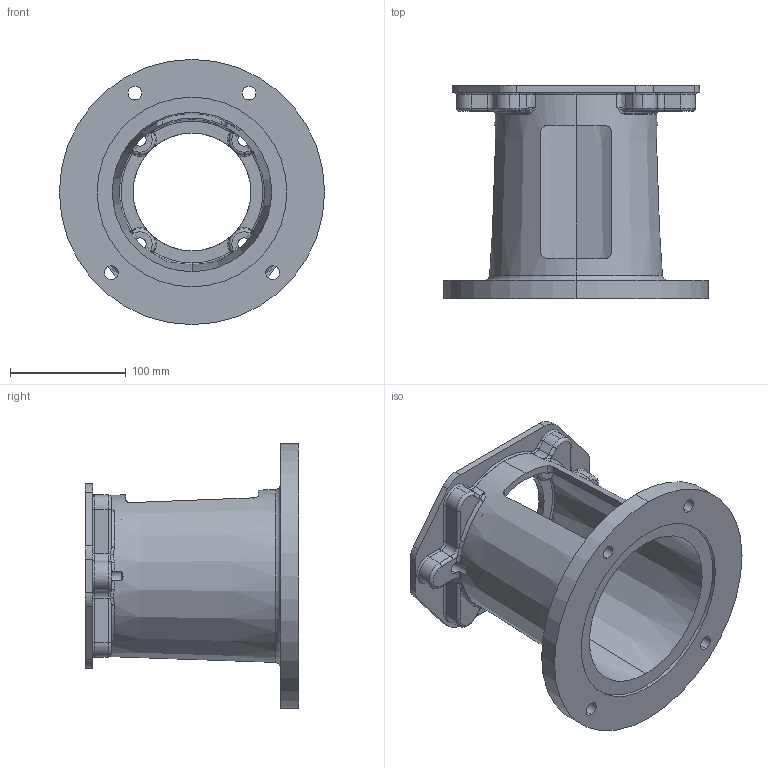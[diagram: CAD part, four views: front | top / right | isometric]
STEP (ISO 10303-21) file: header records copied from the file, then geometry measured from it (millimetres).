
FILE_DESCRIPTION (( 'STEP AP203' ), '1' );
FILE_NAME ('E644722B.STEP', '2014-11-03T18:57:40', ( '' ), ( '' ), 'SwSTEP 2.0', 'SolidWorks 2014', '' );
FILE_SCHEMA (( 'CONFIG_CONTROL_DESIGN' ));
Length unit declared in the file: inch
Products named in the file (1): E644722B
Bounding box: 228.6 x 184.15 x 228.6 mm (x, y, z)
Volume: 994843.7 mm3; surface area: 246754.8 mm2
Topology: 1 solids, 1 shells, 288 faces, 760 edges, 449 vertices
Faces by surface type: torus 87, cylinder 74, bspline 48, plane 43, cone 20, sphere 16
Entity records: 11461 total; most frequent: CARTESIAN_POINT 4608, ORIENTED_EDGE 1480, DIRECTION 1442, EDGE_CURVE 740, AXIS2_PLACEMENT_3D 649, VERTEX_POINT 449, CIRCLE 408, EDGE_LOOP 307
